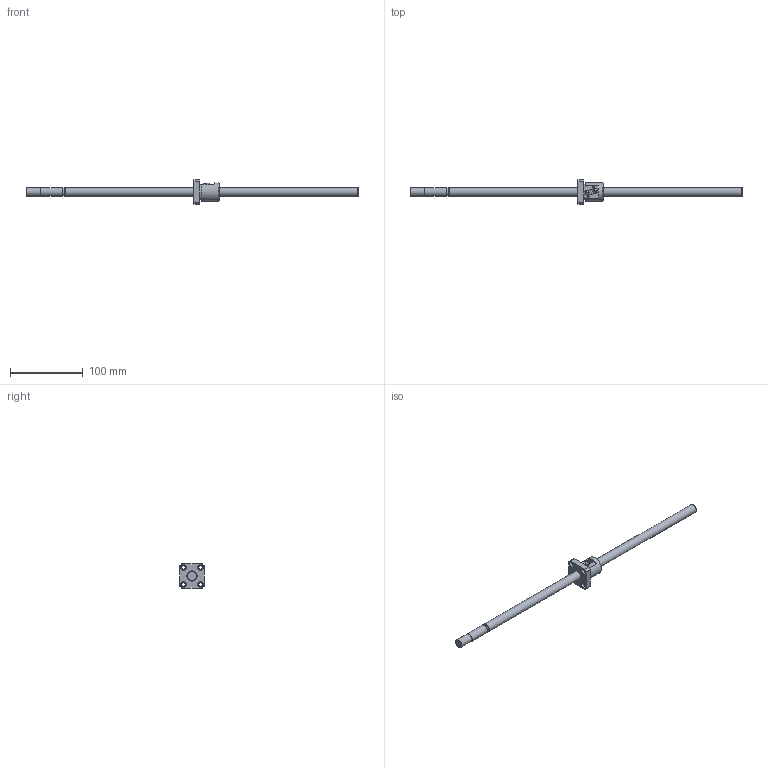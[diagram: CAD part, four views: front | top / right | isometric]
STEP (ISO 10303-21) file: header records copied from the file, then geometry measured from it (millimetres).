
FILE_DESCRIPTION((''),'2;1');
FILE_NAME('D:\製品 (図面)\カタログ用3D\ネジ関連\STEP形式\KBS(C)\KBS(C)1202-455.stp','2010-06-02T09:15:50',('Tsuchiya'),(''),'Autodesk Inventor 10','Autodesk Inventor 10','');
FILE_SCHEMA(('AUTOMOTIVE_DESIGN { 1 0 10303 214 1 1 1 1 }'));
Length unit declared in the file: millimetre
Products named in the file (3): KBS(C)1202-455; KBS(C)1202-4551; KBS(C)1202-4552
Assembly tree (2 placements, depth 2):
  KBS(C)1202-455
    KBS(C)1202-4551
    KBS(C)1202-4552
Bounding box: 455 x 34 x 34 mm (x, y, z)
Volume: 67529.9 mm3; surface area: 24761 mm2
Topology: 2 solids, 2 shells, 93 faces, 232 edges, 153 vertices
Faces by surface type: plane 42, cylinder 30, bspline 16, cone 3, torus 2
Full cylindrical faces by diameter (mm): 2.1 x1, 4.5 x4, 5.6 x1, 8 x4, 10.6 x1, 11.7 x1, 12 x3, 14 x2, 25 x1
Entity records: 2863 total; most frequent: CARTESIAN_POINT 718, DIRECTION 408, ORIENTED_EDGE 396, EDGE_CURVE 198, AXIS2_PLACEMENT_3D 152, VERTEX_POINT 146, EDGE_LOOP 146, VECTOR 104
